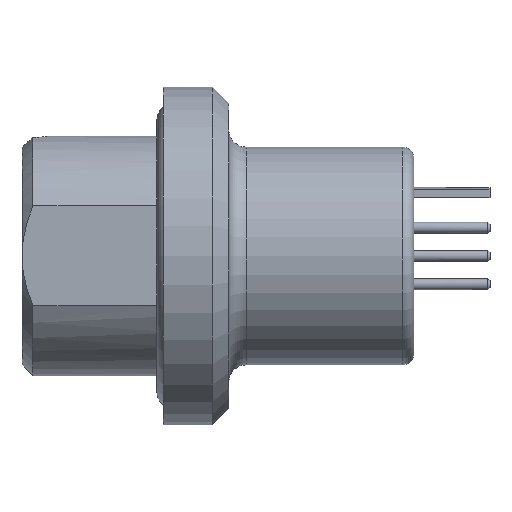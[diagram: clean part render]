
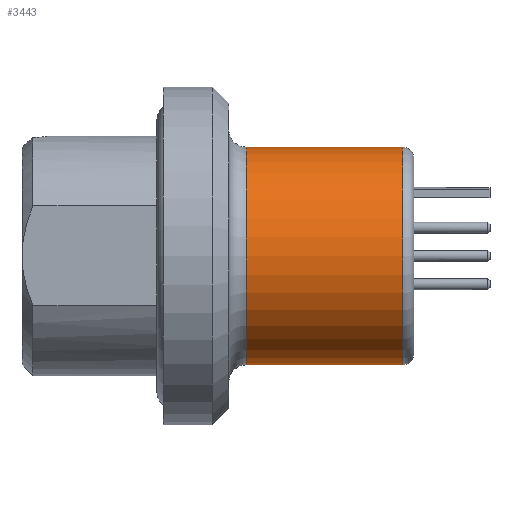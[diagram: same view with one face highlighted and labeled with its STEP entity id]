
A CAD part, top view. The second image highlights one B-rep face of the part: STEP entity #3443.
In plain terms, the highlighted cylindrical face has radius 5 mm (diameter 10 mm), a partial arc.
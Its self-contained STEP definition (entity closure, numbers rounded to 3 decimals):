
#444=CARTESIAN_POINT('',(5.5,0.,0.));
#445=DIRECTION('',(-1.,0.,0.));
#446=DIRECTION('',(0.,-1.,0.));
#447=AXIS2_PLACEMENT_3D('',#444,#445,#446);
#464=DIRECTION('',(-1.,0.,0.));
#465=VECTOR('',#464,7.2);
#466=CARTESIAN_POINT('',(5.5,5.,0.));
#467=LINE('',#466,#465);
#468=DIRECTION('',(-1.,0.,0.));
#469=VECTOR('',#468,7.2);
#470=CARTESIAN_POINT('',(5.5,-5.,0.));
#471=LINE('',#470,#469);
#472=CARTESIAN_POINT('',(-1.7,0.,0.));
#473=DIRECTION('',(1.,0.,0.));
#474=DIRECTION('',(0.,1.,0.));
#475=AXIS2_PLACEMENT_3D('',#472,#473,#474);
#2542=CARTESIAN_POINT('',(-1.7,5.,0.));
#2543=CARTESIAN_POINT('',(-1.7,-5.,0.));
#2544=VERTEX_POINT('',#2542);
#2545=VERTEX_POINT('',#2543);
#2546=CARTESIAN_POINT('',(5.5,-5.,0.));
#2547=CARTESIAN_POINT('',(5.5,5.,0.));
#2548=VERTEX_POINT('',#2546);
#2549=VERTEX_POINT('',#2547);
#3431=CARTESIAN_POINT('',(6.9,0.,0.));
#3432=DIRECTION('',(-1.,0.,0.));
#3433=DIRECTION('',(0.,-1.,0.));
#3434=AXIS2_PLACEMENT_3D('',#3431,#3432,#3433);
#3435=CYLINDRICAL_SURFACE('',#3434,5.);
#3436=ORIENTED_EDGE('',*,*,#3375,.F.);
#3437=ORIENTED_EDGE('',*,*,#3419,.T.);
#3439=ORIENTED_EDGE('',*,*,#3438,.F.);
#3440=ORIENTED_EDGE('',*,*,#3415,.F.);
#3441=EDGE_LOOP('',(#3436,#3437,#3439,#3440));
#3442=FACE_OUTER_BOUND('',#3441,.F.);
#448=CIRCLE('',#447,5.);
#476=CIRCLE('',#475,5.);
#3375=EDGE_CURVE('',#2548,#2549,#448,.T.);
#3415=EDGE_CURVE('',#2549,#2544,#467,.T.);
#3419=EDGE_CURVE('',#2548,#2545,#471,.T.);
#3438=EDGE_CURVE('',#2544,#2545,#476,.T.);
#3443=ADVANCED_FACE('',(#3442),#3435,.T.);
